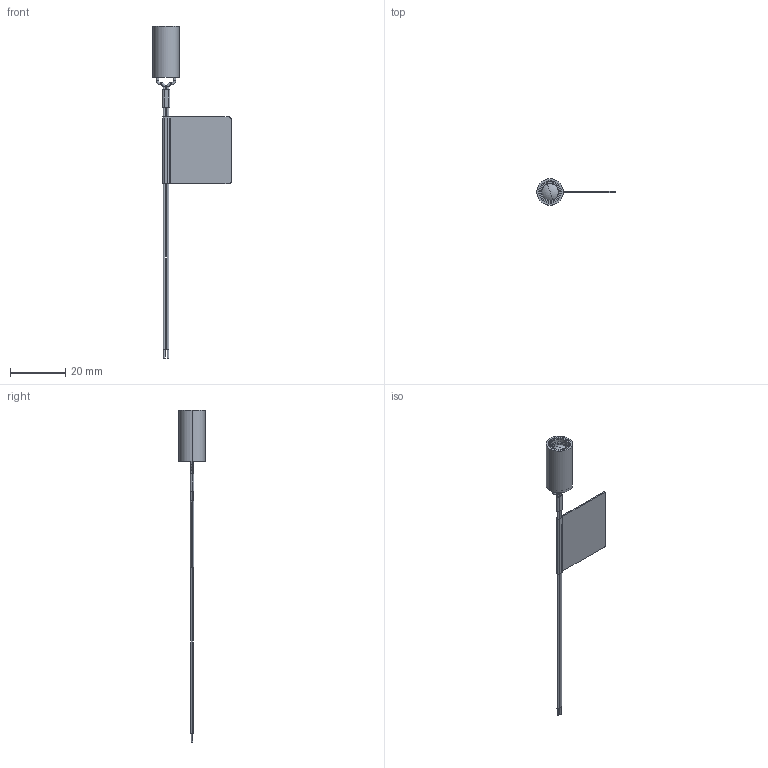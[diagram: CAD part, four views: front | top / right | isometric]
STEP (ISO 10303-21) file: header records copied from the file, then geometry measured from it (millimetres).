
FILE_DESCRIPTION (( 'STEP AP214' ), '1' );
FILE_NAME ('VLM3-5L VLM3-1L VLM3.5-2.STEP', '2020-01-09T17:47:56', ( '' ), ( '' ), 'SwSTEP 2.0', 'SolidWorks 2019', '' );
FILE_SCHEMA (( 'AUTOMOTIVE_DESIGN' ));
Length unit declared in the file: inch
Products named in the file (1): VLM3-5L VLM3-1L VLM3.5-2
Bounding box: 28.28 x 9.53 x 119.94 mm (x, y, z)
Surface area: 3004.5 mm2 (no closed solid volume)
Topology: 0 solids, 9 shells, 174 faces, 477 edges, 320 vertices
Faces by surface type: plane 96, cylinder 51, bspline 11, torus 8, cone 4, sphere 4
Entity records: 8274 total; most frequent: CARTESIAN_POINT 1557, DIRECTION 923, ORIENTED_EDGE 866, EDGE_CURVE 473, VERTEX_POINT 318, AXIS2_PLACEMENT_3D 310, LINE 303, VECTOR 303
